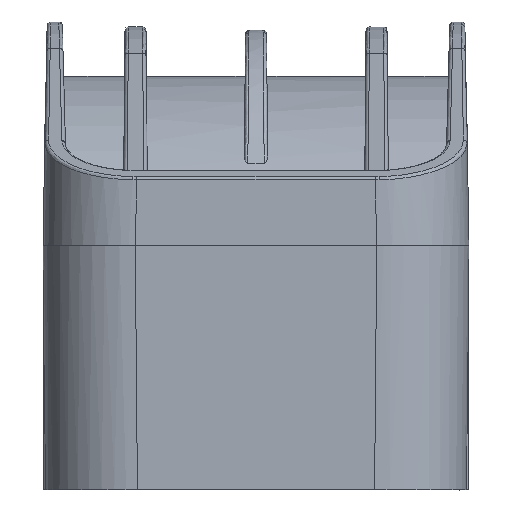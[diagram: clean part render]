
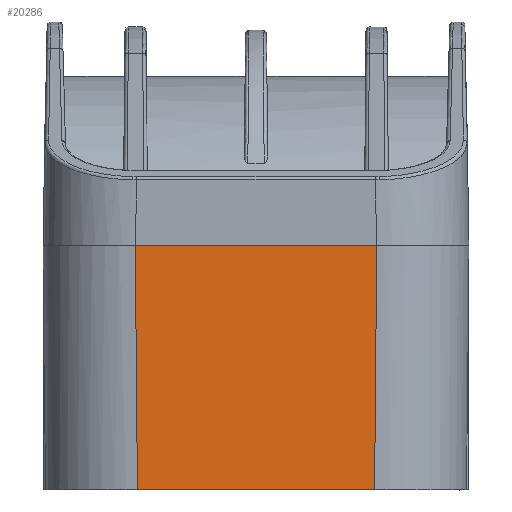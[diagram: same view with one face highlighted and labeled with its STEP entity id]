
A CAD part, front view. The second image highlights one B-rep face of the part: STEP entity #20286.
In plain terms, the highlighted planar face has unit normal (0, -1, -0.009).
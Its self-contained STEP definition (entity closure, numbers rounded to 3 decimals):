
#19151 = FACE_OUTER_BOUND ( 'NONE', #20194, .T. ) ;
#19170 = CARTESIAN_POINT ( 'NONE',  ( -17.001, -63.5, 31.602 ) ) ;
#19171 = LINE ( 'NONE', #19170, #19204 ) ;
#19203 = DIRECTION ( 'NONE',  ( -0.009, -0.009, 1. ) ) ;
#19204 = VECTOR ( 'NONE', #19203, 1000. ) ;
#19205 = PLANE ( 'NONE',  #19242 ) ;
#19206 = CARTESIAN_POINT ( 'NONE',  ( -17.026, -63.525, 34.5 ) ) ;
#19208 = CARTESIAN_POINT ( 'NONE',  ( -16.725, -63.224, 0. ) ) ;
#19209 = DIRECTION ( 'NONE',  ( 1., 0., 0. ) ) ;
#19210 = VECTOR ( 'NONE', #19209, 1000. ) ;
#19212 = LINE ( 'NONE', #19213, #19210 ) ;
#19213 = CARTESIAN_POINT ( 'NONE',  ( -16.7, -63.224, 0. ) ) ;
#19240 = CARTESIAN_POINT ( 'NONE',  ( 17.026, -63.525, 34.5 ) ) ;
#19242 = AXIS2_PLACEMENT_3D ( 'NONE', #19256, #19255, #19254 ) ;
#19245 = DIRECTION ( 'NONE',  ( -0.009, 0.009, -1. ) ) ;
#19246 = VECTOR ( 'NONE', #19245, 1000. ) ;
#19247 = CARTESIAN_POINT ( 'NONE',  ( 16.998, -63.497, 31.306 ) ) ;
#19253 = LINE ( 'NONE', #19247, #19246 ) ;
#19254 = DIRECTION ( 'NONE',  ( 0., 0.009, -1. ) ) ;
#19255 = DIRECTION ( 'NONE',  ( 0., -1., -0.009 ) ) ;
#19256 = CARTESIAN_POINT ( 'NONE',  ( -16.7, -63.5, 31.6 ) ) ;
#19284 = CARTESIAN_POINT ( 'NONE',  ( 16.725, -63.224, 0. ) ) ;
#19356 = DIRECTION ( 'NONE',  ( -1., 0., 0. ) ) ;
#19357 = VECTOR ( 'NONE', #19356, 1000. ) ;
#19368 = CARTESIAN_POINT ( 'NONE',  ( 169.41, -63.525, 34.5 ) ) ;
#19369 = LINE ( 'NONE', #19368, #19357 ) ;
#20194 = EDGE_LOOP ( 'NONE', ( #20279, #20281, #20274, #20278 ) ) ;
#20269 = EDGE_CURVE ( 'NONE', #20271, #20305, #19212, .T. ) ;
#20271 = VERTEX_POINT ( 'NONE', #19208 ) ;
#20273 = EDGE_CURVE ( 'NONE', #20271, #20275, #19171, .T. ) ;
#20274 = ORIENTED_EDGE ( 'NONE', *, *, #20317, .T. ) ;
#20275 = VERTEX_POINT ( 'NONE', #19206 ) ;
#20278 = ORIENTED_EDGE ( 'NONE', *, *, #20273, .F. ) ;
#20279 = ORIENTED_EDGE ( 'NONE', *, *, #20269, .T. ) ;
#20280 = VERTEX_POINT ( 'NONE', #19240 ) ;
#20281 = ORIENTED_EDGE ( 'NONE', *, *, #20291, .F. ) ;
#20286 = ADVANCED_FACE ( 'NONE', ( #19151 ), #19205, .T. ) ;
#20291 = EDGE_CURVE ( 'NONE', #20280, #20305, #19253, .T. ) ;
#20305 = VERTEX_POINT ( 'NONE', #19284 ) ;
#20317 = EDGE_CURVE ( 'NONE', #20280, #20275, #19369, .T. ) ;
